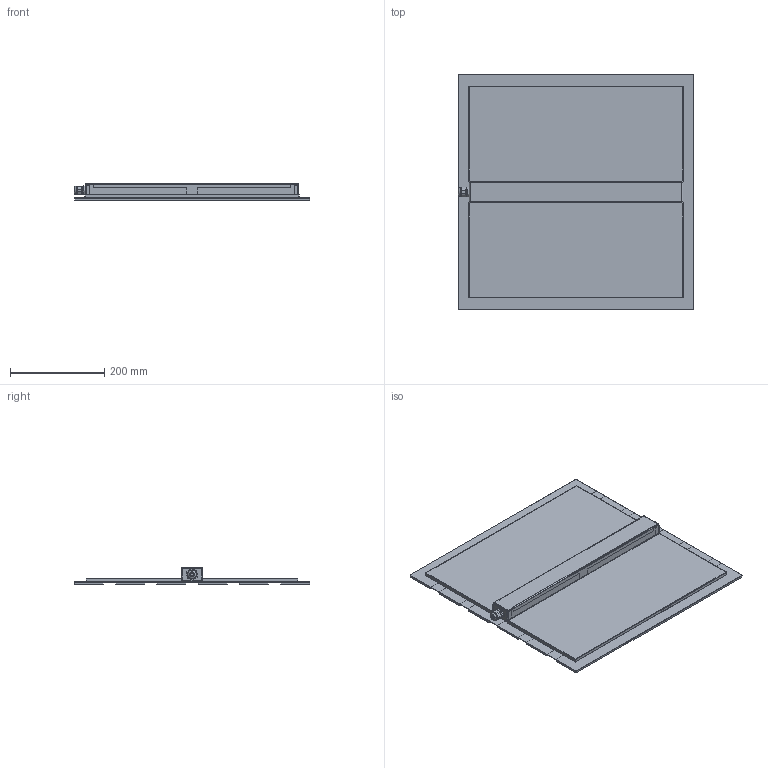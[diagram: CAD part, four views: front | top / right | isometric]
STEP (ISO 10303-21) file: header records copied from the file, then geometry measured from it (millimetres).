
FILE_DESCRIPTION(/* description */ (''),/* implementation_level */ '2;1');
FILE_NAME(/* name */ 'SOTTILE_Q_SO6.stp',/* time_stamp */ '2025-09-22T13:53:44+02:00',/* author */ ('gian.noche'),/* organization */ (''),/* preprocessor_version */ 'ST-DEVELOPER v19.2',/* originating_system */ 'Autodesk Inventor 2023',/* authorisation */ '');
FILE_SCHEMA (('AUTOMOTIVE_DESIGN { 1 0 10303 214 3 1 1 }'));
Products named in the file (1): PLIKE_6_Rev01_Semplifica_1
Bounding box: 500.3 x 500 x 37.9 mm (x, y, z)
Volume: 1166003.5 mm3; surface area: 1026987.1 mm2
Topology: 1 solids, 4 shells, 1724 faces, 3586 edges, 2245 vertices
Faces by surface type: cylinder 718, plane 443, sphere 360, bspline 174, torus 25, cone 4
Full cylindrical faces by diameter (mm): 6.5 x1, 7 x1, 8.5 x3, 11.5 x1, 12 x1, 15 x337, 15.8 x1, 17.8 x1
Entity records: 57530 total; most frequent: CARTESIAN_POINT 19988, DIRECTION 8368, ORIENTED_EDGE 7172, EDGE_CURVE 3586, AXIS2_PLACEMENT_3D 3361, VERTEX_POINT 2245, EDGE_LOOP 2129, FACE_OUTER_BOUND 1724
